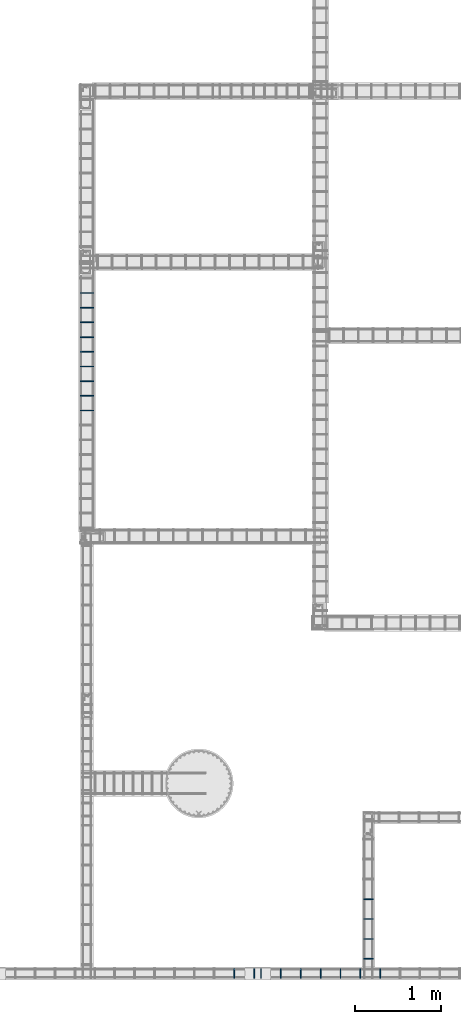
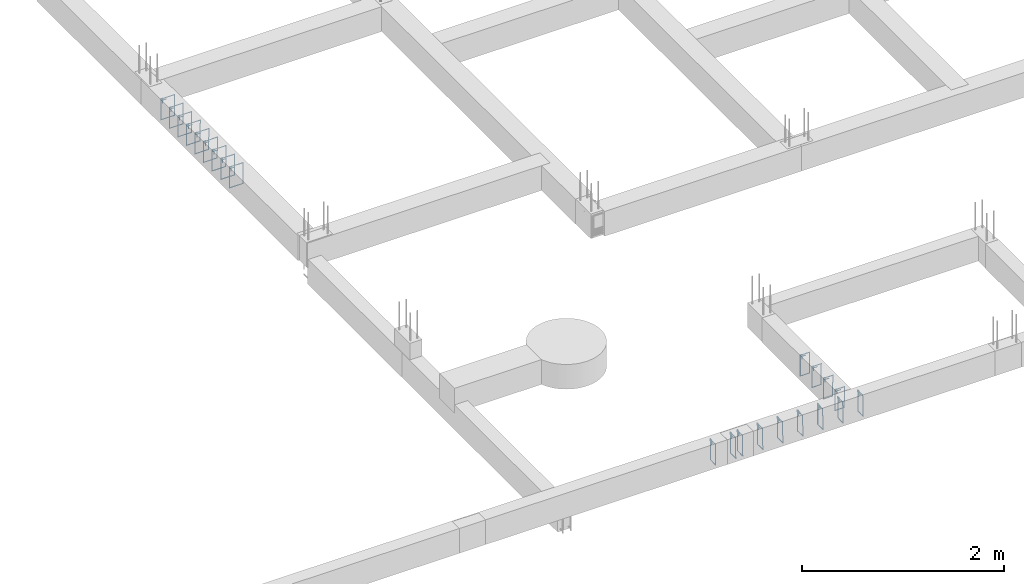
# One storey, part 40 of 150: 22 reinforcing bars.
"""IFC4 building model written with IfcOpenShell, lengths in centimetres."""

from ifc_helpers import new_model, entity, si_unit, derived_unit, frame, origin_with_axes, place, context, project, spatial, source, transform, mapped, element, save


model = new_model("IFC4")

# Units and contexts
model_context = context("Model", 3, precision=1e-05, world=origin_with_axes(), identifier="Body")
ifc_project = project(units=[si_unit("LENGTHUNIT", "METRE", prefix="CENTI"), si_unit("VOLUMEUNIT", "CUBIC_METRE"), si_unit("AREAUNIT", "SQUARE_METRE"), si_unit("POWERUNIT", "WATT"), si_unit("LUMINOUSFLUXUNIT", "LUMEN"), si_unit("ELECTRICCURRENTUNIT", "AMPERE"), si_unit("PRESSUREUNIT", "PASCAL", prefix="KILO"), si_unit("MASSUNIT", "GRAM", prefix="KILO"), si_unit("PLANEANGLEUNIT", "RADIAN"), derived_unit("VOLUMETRICFLOWRATEUNIT", [(si_unit("LENGTHUNIT", "METRE"), 3), (si_unit("TIMEUNIT", "SECOND"), -1)])], contexts=[model_context])

# Site, building, storey
site_placement = place(None, frame((-4000.0, 0.0, 0.0), z_axis=(0.0, 0.0, 1.0), x_axis=(1.0, 0.0, 0.0)))
site = spatial("IfcSite", under=ifc_project, at=site_placement, Name="PADRÃO")
building_placement = place(site_placement, frame((0.0, 0.0, -14.0)))
building = spatial("IfcBuilding", under=site, at=building_placement, Name="CRECHE PRÉ-ESCOLA TIPO 2")
placement = place(building_placement, origin_with_axes())
storey_placement = place(placement, frame((0.0, 0.0, 30.0), z_axis=(0.0, 0.0, 1.0), x_axis=(1.0, 0.0, 0.0)))
storey = spatial("IfcBuildingStorey", under=building, at=storey_placement, Name="VIGA BALDRAME", CompositionType="ELEMENT", Elevation=16.0)

# Reinforcing bars
shared_shape_1 = source(origin_with_axes(), model_context, "Body", "AdvancedSweptSolid", [
    entity("IfcSweptDiskSolid", entity("IfcCompositeCurve", [entity("IfcCompositeCurveSegment", "CONTINUOUS", True, entity("IfcPolyline", [entity("IfcCartesianPoint", [2.0, -6.0, 0.0]), entity("IfcCartesianPoint", [2.0, 0.0, 0.0])])), entity("IfcCompositeCurveSegment", "CONTINUOUS", True, entity("IfcPolyline", [entity("IfcCartesianPoint", [2.0, 0.0, 0.0]), entity("IfcCartesianPoint", [0.0, 0.0, 0.0])])), entity("IfcCompositeCurveSegment", "CONTINUOUS", True, entity("IfcPolyline", [entity("IfcCartesianPoint", [0.0, 0.0, 0.0]), entity("IfcCartesianPoint", [0.0, -25.5, 0.0])])), entity("IfcCompositeCurveSegment", "CONTINUOUS", True, entity("IfcPolyline", [entity("IfcCartesianPoint", [0.0, -25.5, 0.0]), entity("IfcCartesianPoint", [10.5, -25.5, 0.0])])), entity("IfcCompositeCurveSegment", "CONTINUOUS", True, entity("IfcPolyline", [entity("IfcCartesianPoint", [10.5, -25.5, 0.0]), entity("IfcCartesianPoint", [10.5, 0.0, 0.5])])), entity("IfcCompositeCurveSegment", "CONTINUOUS", True, entity("IfcPolyline", [entity("IfcCartesianPoint", [10.5, 0.0, 0.5]), entity("IfcCartesianPoint", [0.0, 0.0, 0.5])])), entity("IfcCompositeCurveSegment", "CONTINUOUS", True, entity("IfcPolyline", [entity("IfcCartesianPoint", [0.0, 0.0, 0.5]), entity("IfcCartesianPoint", [0.0, -2.0, 0.5])])), entity("IfcCompositeCurveSegment", "CONTINUOUS", True, entity("IfcPolyline", [entity("IfcCartesianPoint", [0.0, -2.0, 0.5]), entity("IfcCartesianPoint", [6.0, -2.0, 0.5])]))], False), 0.25),
])
for number, where, z_axis, x_axis, name in (
    (1, (2426.5, 14.75, -2.25), (-1.0, 0.0, 0.0), (0.0, -1.0, 0.0), "V158 - Estribo"),
    (2, (2449.5, 14.75, -2.25), (-1.0, 0.0, 0.0), (0.0, -1.0, 0.0), "V158 - Estribo"),
):
    element("IfcReinforcingBar", number, at=place(storey_placement, frame(where, z_axis=z_axis, x_axis=x_axis)), inside=storey, Name=name, BarLength=0.0, CrossSectionArea=1.9634954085e-05, NominalDiameter=0.5, PredefinedType="MAIN", context=model_context, shape_type="MappedRepresentation", body=[
        mapped(shared_shape_1, transform((0.0, 0.0, 0.0), scale=1.0)),
    ])
shared_shape_2 = source(origin_with_axes(), model_context, "Body", "AdvancedSweptSolid", [
    entity("IfcSweptDiskSolid", entity("IfcCompositeCurve", [entity("IfcCompositeCurveSegment", "CONTINUOUS", True, entity("IfcPolyline", [entity("IfcCartesianPoint", [2.0, -6.0, 0.0]), entity("IfcCartesianPoint", [2.0, 0.0, 0.0])])), entity("IfcCompositeCurveSegment", "CONTINUOUS", True, entity("IfcPolyline", [entity("IfcCartesianPoint", [2.0, 0.0, 0.0]), entity("IfcCartesianPoint", [0.0, 0.0, 0.0])])), entity("IfcCompositeCurveSegment", "CONTINUOUS", True, entity("IfcPolyline", [entity("IfcCartesianPoint", [0.0, 0.0, 0.0]), entity("IfcCartesianPoint", [0.0, -25.5, 0.0])])), entity("IfcCompositeCurveSegment", "CONTINUOUS", True, entity("IfcPolyline", [entity("IfcCartesianPoint", [0.0, -25.5, 0.0]), entity("IfcCartesianPoint", [10.5, -25.5, 0.0])])), entity("IfcCompositeCurveSegment", "CONTINUOUS", True, entity("IfcPolyline", [entity("IfcCartesianPoint", [10.5, -25.5, 0.0]), entity("IfcCartesianPoint", [10.5, 0.0, 0.5])])), entity("IfcCompositeCurveSegment", "CONTINUOUS", True, entity("IfcPolyline", [entity("IfcCartesianPoint", [10.5, 0.0, 0.5]), entity("IfcCartesianPoint", [0.0, 0.0, 0.5])])), entity("IfcCompositeCurveSegment", "CONTINUOUS", True, entity("IfcPolyline", [entity("IfcCartesianPoint", [0.0, 0.0, 0.5]), entity("IfcCartesianPoint", [0.0, -2.0, 0.5])])), entity("IfcCompositeCurveSegment", "CONTINUOUS", True, entity("IfcPolyline", [entity("IfcCartesianPoint", [0.0, -2.0, 0.5]), entity("IfcCartesianPoint", [6.0, -2.0, 0.5])]))], False), 0.25),
])
for number, where, z_axis, x_axis, name in (
    (3, (2457.5, 14.75, -2.25), (-1.0, 0.0, 0.0), (0.0, -1.0, 0.0), "V158 - Estribo"),
    (4, (2480.5, 14.75, -2.25), (-1.0, 0.0, 0.0), (0.0, -1.0, 0.0), "V158 - Estribo"),
    (5, (2503.5, 14.75, -2.25), (-1.0, 0.0, 0.0), (0.0, -1.0, 0.0), "V158 - Estribo"),
    (6, (2526.5, 14.75, -2.25), (-1.0, 0.0, 0.0), (0.0, -1.0, 0.0), "V158 - Estribo"),
    (7, (2549.5, 14.75, -2.25), (-1.0, 0.0, 0.0), (0.0, -1.0, 0.0), "V158 - Estribo"),
    (8, (2572.5, 14.75, -2.25), (-1.0, 0.0, 0.0), (0.0, -1.0, 0.0), "V158 - Estribo"),
    (9, (2595.5, 14.75, -2.25), (-1.0, 0.0, 0.0), (0.0, -1.0, 0.0), "V158 - Estribo"),
):
    element("IfcReinforcingBar", number, at=place(storey_placement, frame(where, z_axis=z_axis, x_axis=x_axis)), inside=storey, Name=name, BarLength=0.0, CrossSectionArea=1.9634954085e-05, NominalDiameter=0.5, PredefinedType="MAIN", context=model_context, shape_type="MappedRepresentation", body=[
        mapped(shared_shape_2, transform((0.0, 0.0, 0.0), scale=1.0)),
    ])
shared_shape_3 = source(origin_with_axes(), model_context, "Body", "AdvancedSweptSolid", [
    entity("IfcSweptDiskSolid", entity("IfcCompositeCurve", [entity("IfcCompositeCurveSegment", "CONTINUOUS", True, entity("IfcPolyline", [entity("IfcCartesianPoint", [2.0, -6.0, 0.0]), entity("IfcCartesianPoint", [2.0, 0.0, 0.0])])), entity("IfcCompositeCurveSegment", "CONTINUOUS", True, entity("IfcPolyline", [entity("IfcCartesianPoint", [2.0, 0.0, 0.0]), entity("IfcCartesianPoint", [0.0, 0.0, 0.0])])), entity("IfcCompositeCurveSegment", "CONTINUOUS", True, entity("IfcPolyline", [entity("IfcCartesianPoint", [0.0, 0.0, 0.0]), entity("IfcCartesianPoint", [0.0, -25.5, 0.0])])), entity("IfcCompositeCurveSegment", "CONTINUOUS", True, entity("IfcPolyline", [entity("IfcCartesianPoint", [0.0, -25.5, 0.0]), entity("IfcCartesianPoint", [15.5, -25.5, 0.0])])), entity("IfcCompositeCurveSegment", "CONTINUOUS", True, entity("IfcPolyline", [entity("IfcCartesianPoint", [15.5, -25.5, 0.0]), entity("IfcCartesianPoint", [15.5, 0.0, 0.5])])), entity("IfcCompositeCurveSegment", "CONTINUOUS", True, entity("IfcPolyline", [entity("IfcCartesianPoint", [15.5, 0.0, 0.5]), entity("IfcCartesianPoint", [0.0, 0.0, 0.5])])), entity("IfcCompositeCurveSegment", "CONTINUOUS", True, entity("IfcPolyline", [entity("IfcCartesianPoint", [0.0, 0.0, 0.5]), entity("IfcCartesianPoint", [0.0, -2.0, 0.5])])), entity("IfcCompositeCurveSegment", "CONTINUOUS", True, entity("IfcPolyline", [entity("IfcCartesianPoint", [0.0, -2.0, 0.5]), entity("IfcCartesianPoint", [6.0, -2.0, 0.5])]))], False), 0.25),
])
for number, where, z_axis, x_axis, name in (
    (10, (2248.23473064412, 661.020260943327, -2.25), (-3.367003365e-05, -1.0, 0.0), (1.0, -3.367003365e-05, 0.0), "V190 - Estribo"),
    (11, (2248.23530303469, 678.020260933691, -2.25), (-3.367003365e-05, -1.0, 0.0), (1.0, -3.367003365e-05, 0.0), "V190 - Estribo"),
    (12, (2248.23587542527, 695.020260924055, -2.25), (-3.367003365e-05, -1.0, 0.0), (1.0, -3.367003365e-05, 0.0), "V190 - Estribo"),
    (13, (2248.23644781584, 712.020260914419, -2.25), (-3.367003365e-05, -1.0, 0.0), (1.0, -3.367003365e-05, 0.0), "V190 - Estribo"),
    (14, (2248.23702020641, 729.020260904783, -2.25), (-3.367003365e-05, -1.0, 0.0), (1.0, -3.367003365e-05, 0.0), "V190 - Estribo"),
    (15, (2248.23816498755, 763.02026088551, -2.25), (-3.367003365e-05, -1.0, 0.0), (1.0, -3.367003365e-05, 0.0), "V190 - Estribo"),
    (16, (2248.23873737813, 780.020260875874, -2.25), (-3.367003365e-05, -1.0, 0.0), (1.0, -3.367003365e-05, 0.0), "V190 - Estribo"),
    (17, (2248.2393097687, 797.020260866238, -2.25), (-3.367003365e-05, -1.0, 0.0), (1.0, -3.367003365e-05, 0.0), "V190 - Estribo"),
    (18, (2248.23759259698, 746.020260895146, -2.25), (-3.367003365e-05, -1.0, 0.0), (1.0, -3.367003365e-05, 0.0), "V190 - Estribo"),
):
    element("IfcReinforcingBar", number, at=place(storey_placement, frame(where, z_axis=z_axis, x_axis=x_axis)), inside=storey, Name=name, BarLength=0.0, CrossSectionArea=1.9634954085e-05, NominalDiameter=0.5, PredefinedType="MAIN", context=model_context, shape_type="MappedRepresentation", body=[
        mapped(shared_shape_3, transform((0.0, 0.0, 0.0), scale=1.0)),
    ])
shared_shape_4 = source(origin_with_axes(), model_context, "Body", "AdvancedSweptSolid", [
    entity("IfcSweptDiskSolid", entity("IfcCompositeCurve", [entity("IfcCompositeCurveSegment", "CONTINUOUS", True, entity("IfcPolyline", [entity("IfcCartesianPoint", [2.0, -6.0, 0.0]), entity("IfcCartesianPoint", [2.0, 0.0, 0.0])])), entity("IfcCompositeCurveSegment", "CONTINUOUS", True, entity("IfcPolyline", [entity("IfcCartesianPoint", [2.0, 0.0, 0.0]), entity("IfcCartesianPoint", [0.0, 0.0, 0.0])])), entity("IfcCompositeCurveSegment", "CONTINUOUS", True, entity("IfcPolyline", [entity("IfcCartesianPoint", [0.0, 0.0, 0.0]), entity("IfcCartesianPoint", [0.0, -25.5, 0.0])])), entity("IfcCompositeCurveSegment", "CONTINUOUS", True, entity("IfcPolyline", [entity("IfcCartesianPoint", [0.0, -25.5, 0.0]), entity("IfcCartesianPoint", [10.5, -25.5, 0.0])])), entity("IfcCompositeCurveSegment", "CONTINUOUS", True, entity("IfcPolyline", [entity("IfcCartesianPoint", [10.5, -25.5, 0.0]), entity("IfcCartesianPoint", [10.5, 0.0, 0.5])])), entity("IfcCompositeCurveSegment", "CONTINUOUS", True, entity("IfcPolyline", [entity("IfcCartesianPoint", [10.5, 0.0, 0.5]), entity("IfcCartesianPoint", [0.0, 0.0, 0.5])])), entity("IfcCompositeCurveSegment", "CONTINUOUS", True, entity("IfcPolyline", [entity("IfcCartesianPoint", [0.0, 0.0, 0.5]), entity("IfcCartesianPoint", [0.0, -2.0, 0.5])])), entity("IfcCompositeCurveSegment", "CONTINUOUS", True, entity("IfcPolyline", [entity("IfcCartesianPoint", [0.0, -2.0, 0.5]), entity("IfcCartesianPoint", [6.0, -2.0, 0.5])]))], False), 0.25),
])
for number, where, z_axis, x_axis, name in (
    (19, (2576.21, 26.75, -2.25), (0.0, -1.0, 0.0), (1.0, 0.0, 0.0), "V201 - Estribo"),
    (20, (2576.21, 49.75, -2.25), (0.0, -1.0, 0.0), (1.0, 0.0, 0.0), "V201 - Estribo"),
    (21, (2576.21, 72.75, -2.25), (0.0, -1.0, 0.0), (1.0, 0.0, 0.0), "V201 - Estribo"),
    (22, (2576.21, 95.75, -2.25), (0.0, -1.0, 0.0), (1.0, 0.0, 0.0), "V201 - Estribo"),
):
    element("IfcReinforcingBar", number, at=place(storey_placement, frame(where, z_axis=z_axis, x_axis=x_axis)), inside=storey, Name=name, BarLength=0.0, CrossSectionArea=1.9634954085e-05, NominalDiameter=0.5, PredefinedType="MAIN", context=model_context, shape_type="MappedRepresentation", body=[
        mapped(shared_shape_4, transform((0.0, 0.0, 0.0), scale=1.0)),
    ])

save(model, "model.ifc")
